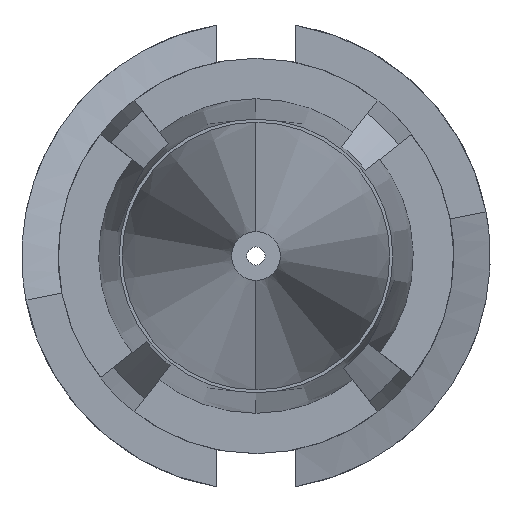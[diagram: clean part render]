
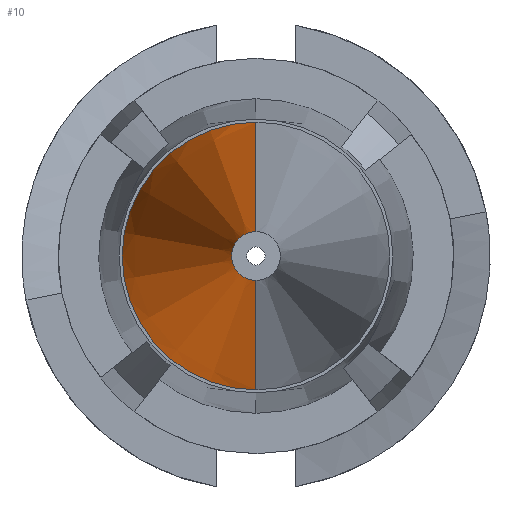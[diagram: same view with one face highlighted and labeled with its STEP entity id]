
A CAD part, left-side view. The second image highlights one B-rep face of the part: STEP entity #10.
In plain terms, the highlighted conical face has half-angle 5.711 degrees and reference radius 2.2 mm.
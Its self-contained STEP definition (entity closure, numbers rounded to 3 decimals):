
#10 = ADVANCED_FACE ( 'NONE', ( #1345 ), #1113, .T. ) ;
#20 = DIRECTION ( 'NONE',  ( 1., 0., 0. ) ) ;
#77 = AXIS2_PLACEMENT_3D ( 'NONE', #1566, #1576, #133 ) ;
#133 = DIRECTION ( 'NONE',  ( 0., 0., -1. ) ) ;
#137 = ORIENTED_EDGE ( 'NONE', *, *, #387, .F. ) ;
#187 = DIRECTION ( 'NONE',  ( 0.995, 0., -0.1 ) ) ;
#193 = CARTESIAN_POINT ( 'NONE',  ( -14., 0., 2.2 ) ) ;
#336 = DIRECTION ( 'NONE',  ( 0.995, 0., 0.1 ) ) ;
#341 = CARTESIAN_POINT ( 'NONE',  ( -14., 0., 0. ) ) ;
#387 = EDGE_CURVE ( 'NONE', #1237, #1421, #1116, .T. ) ;
#388 = ORIENTED_EDGE ( 'NONE', *, *, #1746, .F. ) ;
#608 = VERTEX_POINT ( 'NONE', #1125 ) ;
#655 = LINE ( 'NONE', #1663, #925 ) ;
#790 = ORIENTED_EDGE ( 'NONE', *, *, #966, .T. ) ;
#880 = DIRECTION ( 'NONE',  ( 0., 0., -1. ) ) ;
#888 = DIRECTION ( 'NONE',  ( 1., 0., 0. ) ) ;
#917 = CARTESIAN_POINT ( 'NONE',  ( -32., 0., 0.4 ) ) ;
#925 = VECTOR ( 'NONE', #187, 1000. ) ;
#966 = EDGE_CURVE ( 'NONE', #1067, #1421, #1451, .T. ) ;
#1031 = CARTESIAN_POINT ( 'NONE',  ( -14., 0., 0. ) ) ;
#1067 = VERTEX_POINT ( 'NONE', #917 ) ;
#1105 = CARTESIAN_POINT ( 'NONE',  ( -14., 0., 2.2 ) ) ;
#1113 = CONICAL_SURFACE ( 'NONE', #1530, 2.2, 0.1 ) ;
#1116 = CIRCLE ( 'NONE', #1416, 2.2 ) ;
#1125 = CARTESIAN_POINT ( 'NONE',  ( -32., 0., -0.4 ) ) ;
#1183 = CARTESIAN_POINT ( 'NONE',  ( -14., 0., -2.2 ) ) ;
#1237 = VERTEX_POINT ( 'NONE', #1183 ) ;
#1319 = VECTOR ( 'NONE', #336, 1000. ) ;
#1320 = EDGE_LOOP ( 'NONE', ( #1585, #790, #137, #388 ) ) ;
#1337 = CIRCLE ( 'NONE', #77, 0.4 ) ;
#1345 = FACE_OUTER_BOUND ( 'NONE', #1320, .T. ) ;
#1416 = AXIS2_PLACEMENT_3D ( 'NONE', #341, #888, #880 ) ;
#1421 = VERTEX_POINT ( 'NONE', #1105 ) ;
#1451 = LINE ( 'NONE', #193, #1319 ) ;
#1530 = AXIS2_PLACEMENT_3D ( 'NONE', #1031, #20, #1604 ) ;
#1559 = EDGE_CURVE ( 'NONE', #608, #1067, #1337, .T. ) ;
#1566 = CARTESIAN_POINT ( 'NONE',  ( -32., 0., 0. ) ) ;
#1576 = DIRECTION ( 'NONE',  ( 1., 0., 0. ) ) ;
#1585 = ORIENTED_EDGE ( 'NONE', *, *, #1559, .T. ) ;
#1604 = DIRECTION ( 'NONE',  ( 0., 0., -1. ) ) ;
#1663 = CARTESIAN_POINT ( 'NONE',  ( -14., 0., -2.2 ) ) ;
#1746 = EDGE_CURVE ( 'NONE', #608, #1237, #655, .T. ) ;
